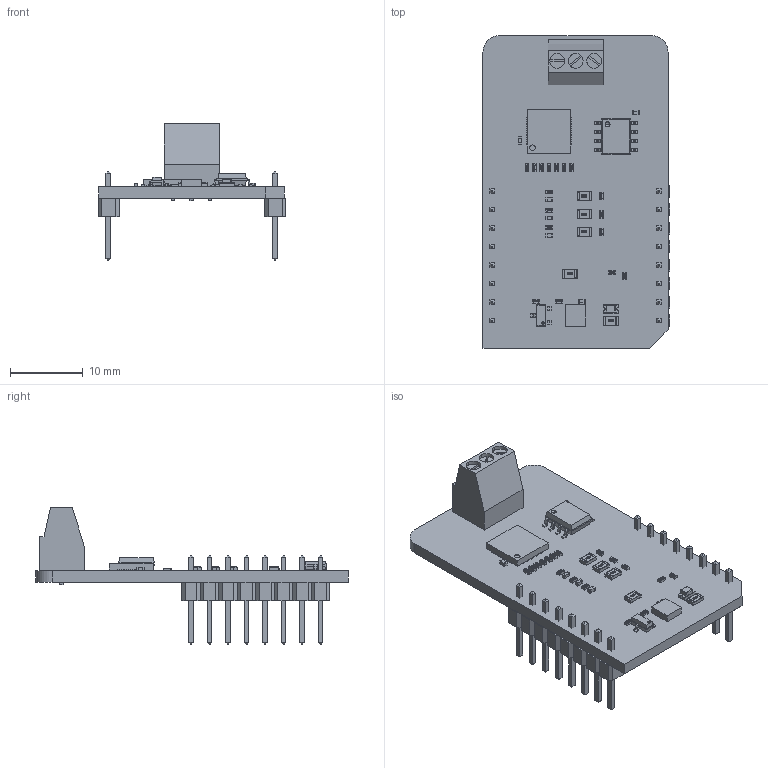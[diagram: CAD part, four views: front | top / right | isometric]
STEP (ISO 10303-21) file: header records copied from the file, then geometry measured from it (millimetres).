
FILE_DESCRIPTION(('Open CASCADE Model'),'2;1');
FILE_NAME('Open CASCADE Shape Model','2025-12-22T12:03:58',('Author'),( 'Open CASCADE'),'Open CASCADE STEP processor 6.8','Open CASCADE 6.8' ,'Unknown');
FILE_SCHEMA(('AUTOMOTIVE_DESIGN { 1 0 10303 214 1 1 1 1 }'));
Length unit declared in the file: millimetre
Products named in the file (57): PCB; Board; CN1; CON_TERMINAL_2.54_1x3_PHO_1725669; U3; IPS1050LQ; Body; ThermalPin; PinsArrayLR; PinsArrayTB; JP2; User_Library-R_0805; U4; SOIC-8; R16; User_Library-R_0402; R15; R14; R13; R12; R11; R10; R9; R8; R7; R6; R5; JP4; JP3; C6; User_Library-SMD_CAPACITOR0402; C5; C4; C3; C2; JP1; MBD1; Header_1x8; Free-Models; 1240637040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
Assembly tree (83 placements, depth 7):
  PCB
    Board
    CN1
      CON_TERMINAL_2.54_1x3_PHO_1725669
    U3
      IPS1050LQ
        Body
        ThermalPin
        PinsArrayLR
        PinsArrayTB
    JP2
      User_Library-R_0805
    U4
      SOIC-8
    R16
      User_Library-R_0402
    R15
      User_Library-R_0402
    R14
      User_Library-R_0402
    R13
      User_Library-R_0402
    R12
      User_Library-R_0402
    R11
      User_Library-R_0402
    R10
      User_Library-R_0402
    R9
      User_Library-R_0402
    R8
      User_Library-R_0402
    R7
      User_Library-R_0402
    R6
      User_Library-R_0402
    R5
      User_Library-R_0402
    JP4
      User_Library-R_0805
    JP3
      User_Library-R_0805
    C6
      User_Library-SMD_CAPACITOR0402
    C5
      User_Library-SMD_CAPACITOR0402
    C4
      User_Library-SMD_CAPACITOR0402
    C3
      User_Library-SMD_CAPACITOR0402
    C2
      User_Library-SMD_CAPACITOR0402
    JP1
      User_Library-R_0805
    MBD1
      Header_1x8  x2
        PCB
          Free-Models
            1240637040  x2
              User_Library-PinHeaderX5-1_PinHeaderX5_Body_1
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Bounding box: 25.78 x 42.93 x 18.75 mm (x, y, z)
Volume: 2591 mm3; surface area: 4496.8 mm2
Topology: 142 solids, 142 shells, 3270 faces, 8055 edges, 5202 vertices
Faces by surface type: plane 2370, bspline 652, cylinder 192, sphere 56
Full cylindrical faces by diameter (mm): 0.75 x1
Entity records: 33878 total; most frequent: CARTESIAN_POINT 8835, ORIENTED_EDGE 4222, DIRECTION 4033, EDGE_CURVE 2111, LINE 1729, VECTOR 1729, VERTEX_POINT 1354, AXIS2_PLACEMENT_3D 1152
